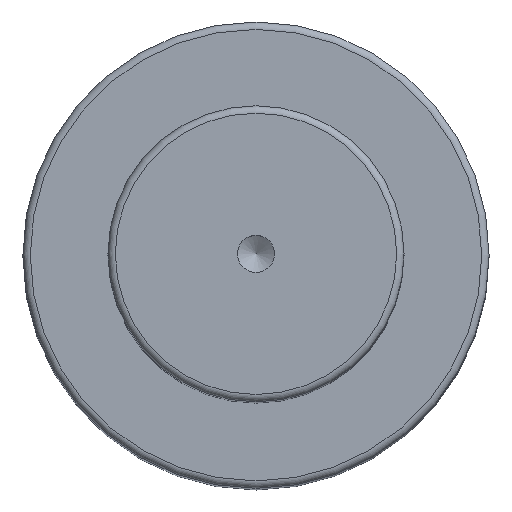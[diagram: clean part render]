
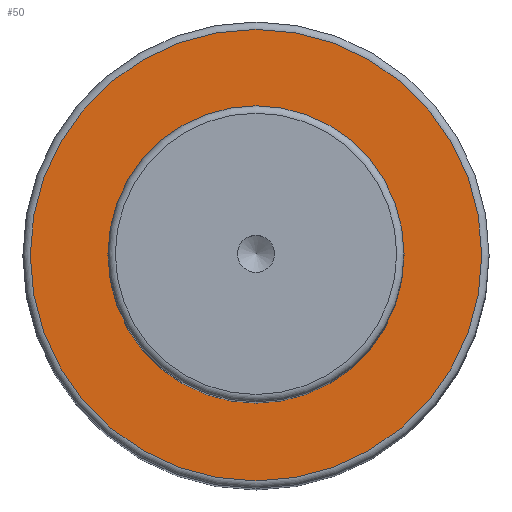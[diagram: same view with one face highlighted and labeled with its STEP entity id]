
A CAD part, top view. The second image highlights one B-rep face of the part: STEP entity #50.
In plain terms, the highlighted planar face has unit normal (0, 0, 1).
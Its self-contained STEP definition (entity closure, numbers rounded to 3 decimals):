
#40=PLANE('',#179);
#50=ADVANCED_FACE('',(#72,#73),#40,.F.);
#72=FACE_BOUND('',#96,.T.);
#73=FACE_BOUND('',#97,.T.);
#96=EDGE_LOOP('',(#118));
#97=EDGE_LOOP('',(#119));
#118=ORIENTED_EDGE('',*,*,#149,.F.);
#119=ORIENTED_EDGE('',*,*,#148,.T.);
#135=VERTEX_POINT('',#256);
#136=VERTEX_POINT('',#259);
#148=EDGE_CURVE('',#135,#135,#159,.T.);
#149=EDGE_CURVE('',#136,#136,#160,.T.);
#159=CIRCLE('',#176,20.);
#160=CIRCLE('',#178,30.5);
#176=AXIS2_PLACEMENT_3D('',#255,#213,#214);
#178=AXIS2_PLACEMENT_3D('',#258,#217,#218);
#179=AXIS2_PLACEMENT_3D('',#260,#219,#220);
#213=DIRECTION('',(0.,0.,-1.));
#214=DIRECTION('',(-1.,0.,0.));
#217=DIRECTION('',(0.,0.,-1.));
#218=DIRECTION('',(-1.,0.,0.));
#219=DIRECTION('',(0.,0.,-1.));
#220=DIRECTION('',(-1.,0.,0.));
#255=CARTESIAN_POINT('',(0.,0.,134.));
#256=CARTESIAN_POINT('',(-20.,0.,134.));
#258=CARTESIAN_POINT('',(0.,0.,134.));
#259=CARTESIAN_POINT('',(-30.5,0.,134.));
#260=CARTESIAN_POINT('',(20.,0.,134.));
